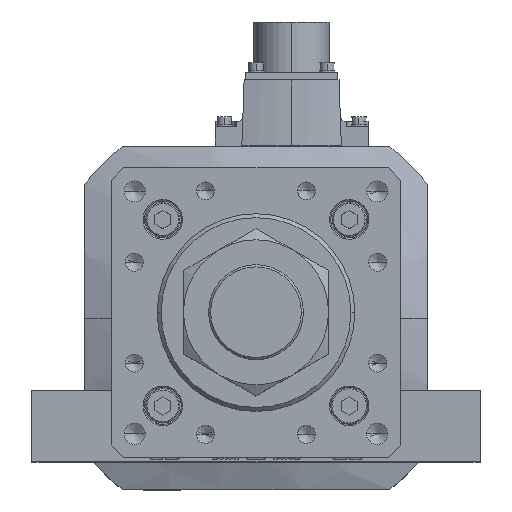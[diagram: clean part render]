
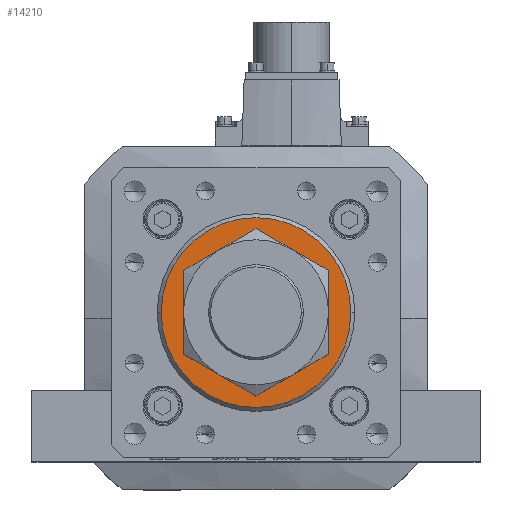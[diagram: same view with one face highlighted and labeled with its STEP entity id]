
A CAD part, top view. The second image highlights one B-rep face of the part: STEP entity #14210.
In plain terms, the highlighted planar face has unit normal (0, 0, 1).
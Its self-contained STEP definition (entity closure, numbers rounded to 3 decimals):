
#672 = DIRECTION ( 'NONE',  ( 1., 0., 0. ) ) ;
#2393 = VERTEX_POINT ( 'NONE', #29390 ) ;
#3045 = DIRECTION ( 'NONE',  ( 0., 0., 1. ) ) ;
#3400 = AXIS2_PLACEMENT_3D ( 'NONE', #20270, #8146, #28808 ) ;
#3833 = CARTESIAN_POINT ( 'NONE',  ( 0., 0., 946. ) ) ;
#5052 = PLANE ( 'NONE',  #3400 ) ;
#5386 = VERTEX_POINT ( 'NONE', #27997 ) ;
#6185 = DIRECTION ( 'NONE',  ( 1., 0., 0. ) ) ;
#6530 = CARTESIAN_POINT ( 'NONE',  ( 0., 0., 946. ) ) ;
#6719 = EDGE_CURVE ( 'NONE', #37068, #2393, #8132, .T. ) ;
#8132 = CIRCLE ( 'NONE', #35199, 36. ) ;
#8146 = DIRECTION ( 'NONE',  ( 0., 0., 1. ) ) ;
#9030 = ORIENTED_EDGE ( 'NONE', *, *, #17305, .T. ) ;
#10909 = ORIENTED_EDGE ( 'NONE', *, *, #6719, .T. ) ;
#12100 = VERTEX_POINT ( 'NONE', #29435 ) ;
#14210 = ADVANCED_FACE ( 'NONE', ( #34348, #15911 ), #5052, .T. ) ;
#14305 = AXIS2_PLACEMENT_3D ( 'NONE', #23770, #3045, #6185 ) ;
#14408 = EDGE_CURVE ( 'NONE', #12100, #5386, #37745, .T. ) ;
#15911 = FACE_OUTER_BOUND ( 'NONE', #16611, .T. ) ;
#16611 = EDGE_LOOP ( 'NONE', ( #10909, #9030 ) ) ;
#17305 = EDGE_CURVE ( 'NONE', #2393, #37068, #37975, .T. ) ;
#18491 = DIRECTION ( 'NONE',  ( 0., 0., -1. ) ) ;
#18536 = DIRECTION ( 'NONE',  ( 1., 0., 0. ) ) ;
#20270 = CARTESIAN_POINT ( 'NONE',  ( 0., 0., 946. ) ) ;
#21370 = DIRECTION ( 'NONE',  ( 1., 0., 0. ) ) ;
#22601 = ORIENTED_EDGE ( 'NONE', *, *, #14408, .T. ) ;
#23770 = CARTESIAN_POINT ( 'NONE',  ( 0., 0., 946. ) ) ;
#24358 = AXIS2_PLACEMENT_3D ( 'NONE', #35825, #18491, #672 ) ;
#26607 = CIRCLE ( 'NONE', #24358, 23. ) ;
#26942 = DIRECTION ( 'NONE',  ( 0., 0., 1. ) ) ;
#27997 = CARTESIAN_POINT ( 'NONE',  ( -23., 0., 946. ) ) ;
#28808 = DIRECTION ( 'NONE',  ( 1., 0., 0. ) ) ;
#29144 = EDGE_CURVE ( 'NONE', #5386, #12100, #26607, .T. ) ;
#29390 = CARTESIAN_POINT ( 'NONE',  ( 36., 0., 946. ) ) ;
#29435 = CARTESIAN_POINT ( 'NONE',  ( 23., 0., 946. ) ) ;
#30953 = EDGE_LOOP ( 'NONE', ( #22601, #32095 ) ) ;
#31992 = AXIS2_PLACEMENT_3D ( 'NONE', #3833, #36372, #18536 ) ;
#32095 = ORIENTED_EDGE ( 'NONE', *, *, #29144, .T. ) ;
#34348 = FACE_BOUND ( 'NONE', #30953, .T. ) ;
#35199 = AXIS2_PLACEMENT_3D ( 'NONE', #6530, #26942, #21370 ) ;
#35663 = CARTESIAN_POINT ( 'NONE',  ( -36., 0., 946. ) ) ;
#35825 = CARTESIAN_POINT ( 'NONE',  ( 0., 0., 946. ) ) ;
#36372 = DIRECTION ( 'NONE',  ( 0., 0., -1. ) ) ;
#37068 = VERTEX_POINT ( 'NONE', #35663 ) ;
#37745 = CIRCLE ( 'NONE', #31992, 23. ) ;
#37975 = CIRCLE ( 'NONE', #14305, 36. ) ;
